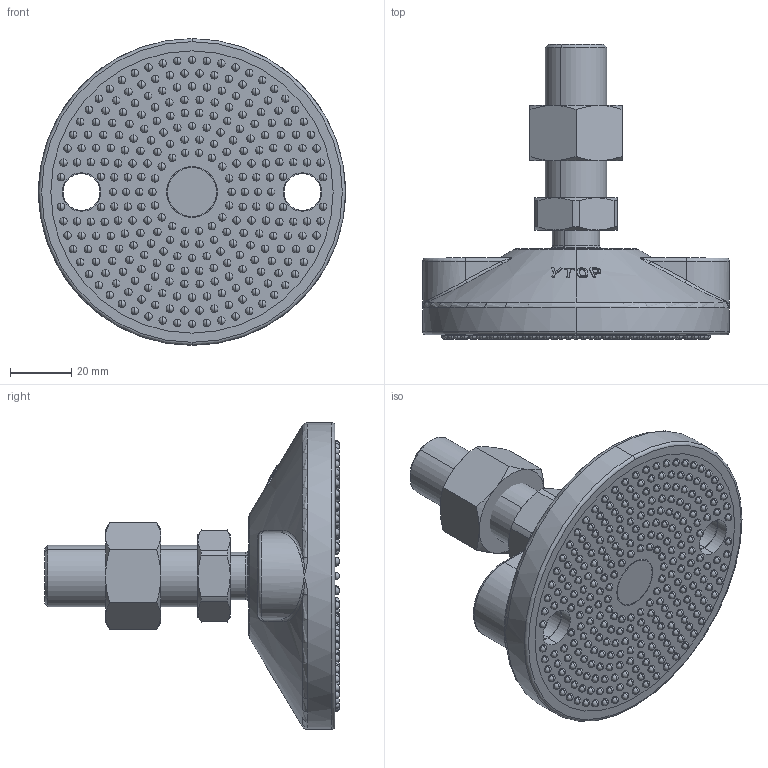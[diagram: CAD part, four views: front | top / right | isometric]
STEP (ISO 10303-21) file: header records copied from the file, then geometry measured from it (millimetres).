
FILE_DESCRIPTION (( 'STEP AP203' ), '1' );
FILE_NAME ('G-100-2050-PA.STEP', '2020-09-08T08:26:30', ( '' ), ( '' ), 'SwSTEP 2.0', 'SolidWorks 2016', '' );
FILE_SCHEMA (( 'CONFIG_CONTROL_DESIGN' ));
Length unit declared in the file: millimetre
Products named in the file (5): G100菁釱; G100菁菜; 球头螺杆M20系列_M20X50; G-100-2050-PA; GB╱T 6170-2000[1型六角螺母 A级和B级M20]_M64
Assembly tree (4 placements, depth 2):
  G-100-2050-PA
    G100菁釱
    G100菁菜
    GB╱T 6170-2000[1型六角螺母 A级和B级M20]_M64
    球头螺杆M20系列_M20X50
Bounding box: 100 x 96.12 x 100 mm (x, y, z)
Volume: 156665.3 mm3; surface area: 57901.5 mm2
Topology: 4 solids, 4 shells, 1339 faces, 3906 edges, 2302 vertices
Faces by surface type: cylinder 601, sphere 562, bspline 62, plane 50, cone 45, torus 19
Entity records: 41476 total; most frequent: CARTESIAN_POINT 11223, DIRECTION 7024, ORIENTED_EDGE 5594, AXIS2_PLACEMENT_3D 3175, EDGE_CURVE 2797, CIRCLE 1891, VERTEX_POINT 1751, EDGE_LOOP 1636
